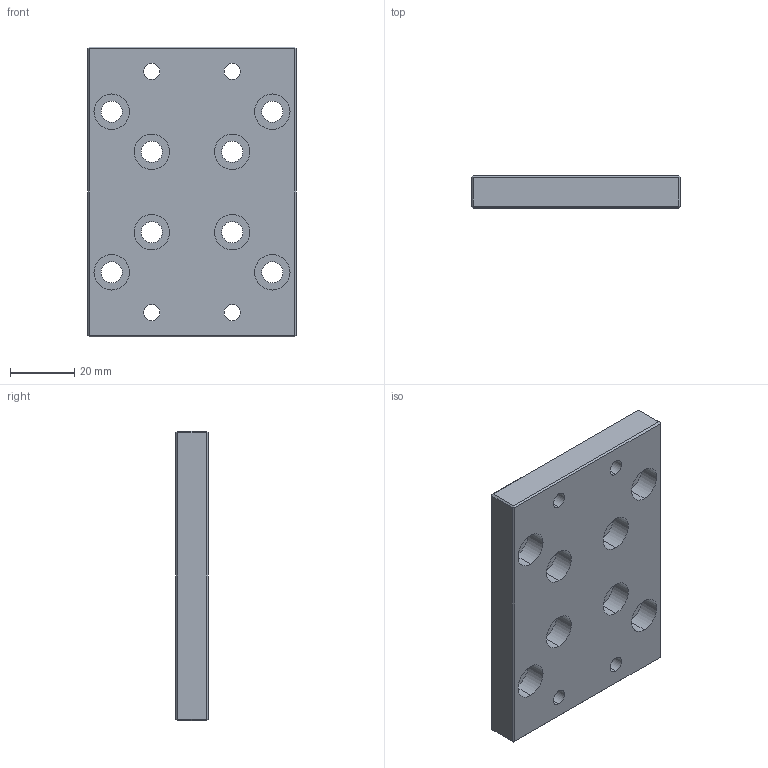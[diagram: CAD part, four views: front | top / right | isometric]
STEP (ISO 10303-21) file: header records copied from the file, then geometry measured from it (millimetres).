
FILE_DESCRIPTION (( 'STEP AP203' ), '1' );
FILE_NAME ('BP-28.step', '2019-05-09T08:55:56', ( '' ), ( '' ), 'SwSTEP 2.0', 'SolidWorks 2016', '' );
FILE_SCHEMA (( 'CONFIG_CONTROL_DESIGN' ));
Length unit declared in the file: millimetre
Products named in the file (1): BP-28
Bounding box: 65 x 10 x 90 mm (x, y, z)
Volume: 51733.1 mm3; surface area: 16907.3 mm2
Topology: 1 solids, 1 shells, 74 faces, 168 edges, 104 vertices
Faces by surface type: cylinder 40, plane 34
Entity records: 2205 total; most frequent: DIRECTION 398, CARTESIAN_POINT 347, ORIENTED_EDGE 336, EDGE_CURVE 168, AXIS2_PLACEMENT_3D 155, EDGE_LOOP 106, VERTEX_POINT 104, LINE 88
